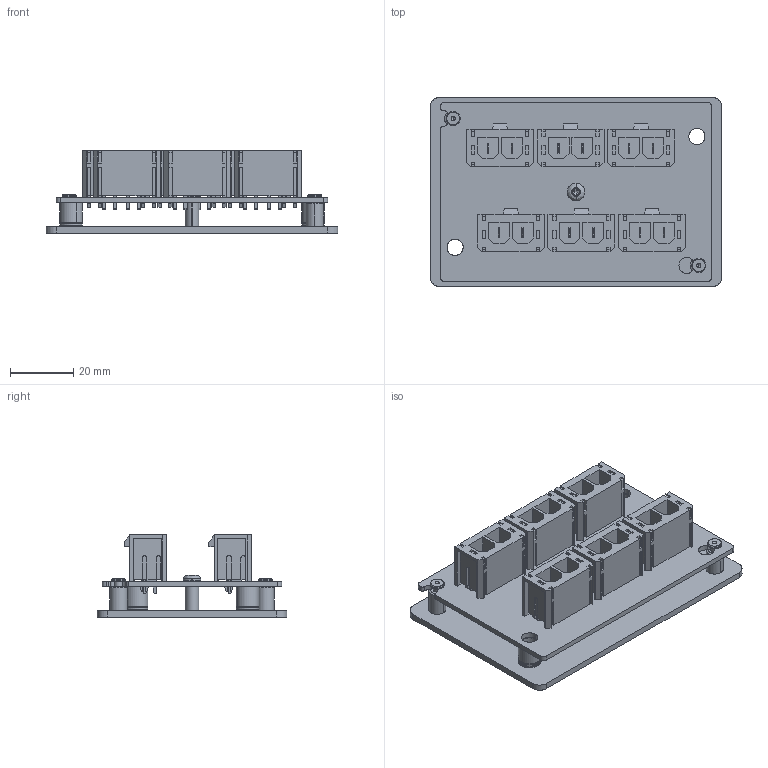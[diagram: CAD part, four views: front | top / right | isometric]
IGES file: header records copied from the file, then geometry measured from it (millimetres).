
Start section: SolidWorks IGES file using analytic representation for surfaces
Global section: file name: C:\TeknicPDM\clearpath\clearpath sc\clearpath sc customer downloadable\POWER4-STRIP.IGS; native system: SolidWorks 2020; preprocessor: SolidWorks 2020; author: mike_berezny; date: 231026.135147; units: inch
Bounding box: 91.95 x 59.69 x 25.89 mm (x, y, z)
Surface area: 38393.2 mm2 (no closed solid volume)
Topology: 0 solids, 0 shells, 1610 faces, 13780 edges, 13768 vertices
Faces by surface type: bspline 1302, revolution 308
